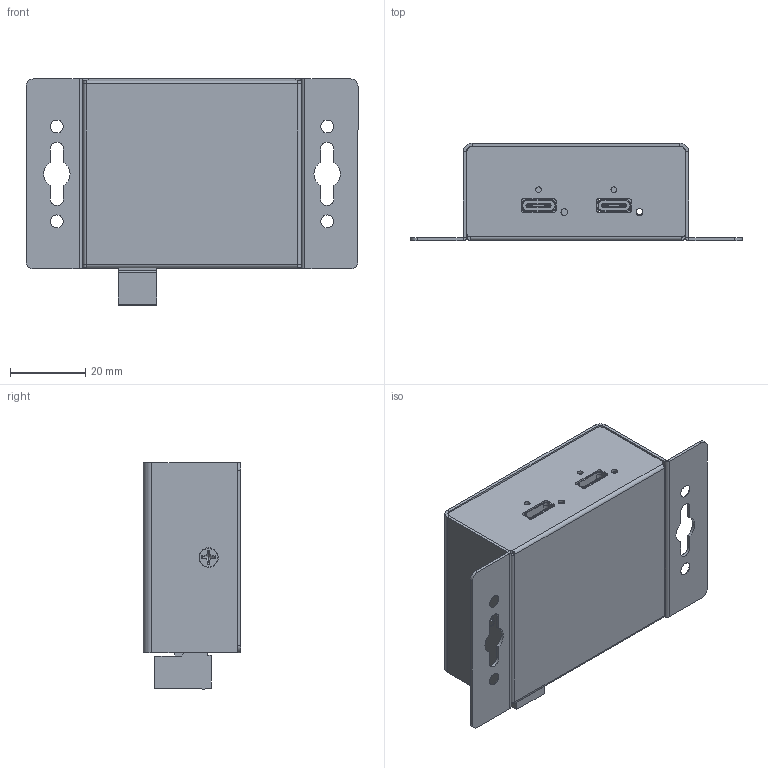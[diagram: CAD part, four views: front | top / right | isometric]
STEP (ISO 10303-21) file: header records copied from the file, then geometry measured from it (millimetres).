
FILE_DESCRIPTION(/* description */ (''),/* implementation_level */ '2;1');
FILE_NAME(/* name */ 'CG-PD110C2_Model3D_JWV1.step',/* time_stamp */ '2023-03-03T15:26:06-05:00',/* author */ (''),/* organization */ (''),/* preprocessor_version */ 'ST-DEVELOPER v19.2',/* originating_system */ 'Autodesk Translation Framework v11.17.0.187',/* authorisation */ '');
FILE_SCHEMA (('AUTOMOTIVE_DESIGN { 1 0 10303 214 3 1 1 }'));
Length unit declared in the file: millimetre
Products named in the file (10): CG-PD60PPS_screwlock; Case; Base; C-type Usb v3; M3X0.5 China 120ang METRIC 18-8 SS FLAT HEAD PHIL MACHINE SCREW v2 (1
); M3X0.5 China 120ang METRIC 18-8 SS FLAT HEAD PHIL MACHINE SCREW v2 (1
) (1); Conector 2dbl short dinkle_2esdsm-02p v1; Phoenix connector EDZ950/XX TERMINAL BLOCK PLUGGABLE PLUG v6; C-type Usb v3_1; TypeC(12)
Assembly tree (10 placements, depth 4):
  CG-PD60PPS_screwlock
    Case
    Base
      C-type Usb v3
        TypeC(12)
      M3X0.5 China 120ang METRIC 18-8 SS FLAT HEAD PHIL MACHINE SCREW v2 (1
)
        M3X0.5 China 120ang METRIC 18-8 SS FLAT HEAD PHIL MACHINE SCREW v2 (1
) (1)
      Conector 2dbl short dinkle_2esdsm-02p v1
      Phoenix connector EDZ950/XX TERMINAL BLOCK PLUGGABLE PLUG v6
    C-type Usb v3_1
      TypeC(12)
Bounding box: 88.2 x 25.9 x 60.1 mm (x, y, z)
Volume: 13809.3 mm3; surface area: 31657 mm2
Topology: 8 solids, 8 shells, 1511 faces, 4128 edges, 2676 vertices
Faces by surface type: plane 1072, cylinder 349, cone 50, bspline 22, sphere 10, torus 8
Full cylindrical faces by diameter (mm): 0.5 x4, 1.47 x1, 1.471 x1, 1.6 x2, 1.784 x2, 2.529 x2, 3 x2, 3.86 x2, 5.3 x4
Entity records: 34118 total; most frequent: CARTESIAN_POINT 7882, ORIENTED_EDGE 5464, DIRECTION 5229, EDGE_CURVE 2732, LINE 2039, VECTOR 2039, VERTEX_POINT 1770, AXIS2_PLACEMENT_3D 1595
